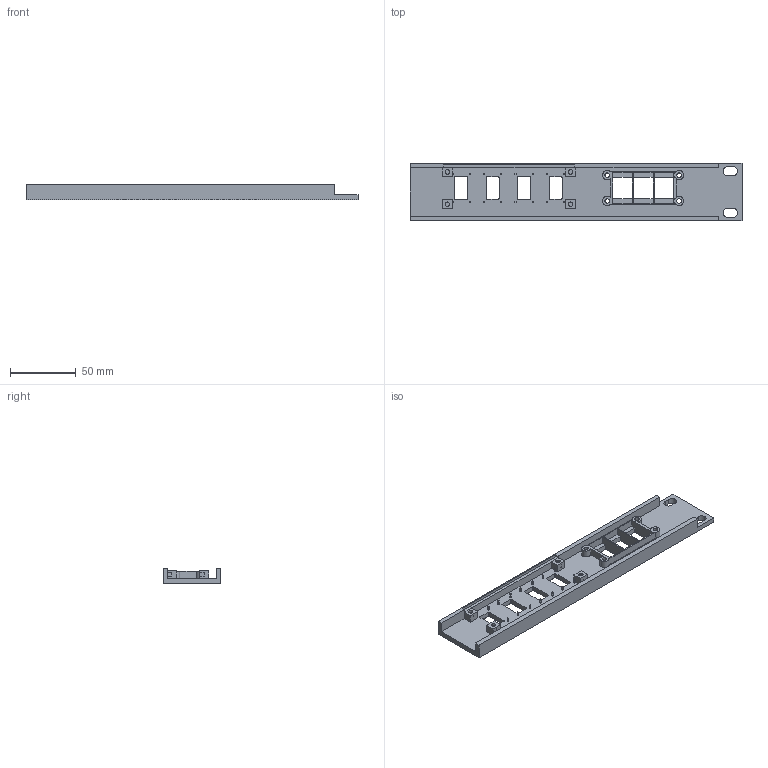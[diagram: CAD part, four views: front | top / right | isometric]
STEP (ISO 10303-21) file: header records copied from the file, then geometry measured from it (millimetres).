
FILE_DESCRIPTION(('Open CASCADE Model'),'2;1');
FILE_NAME('Open CASCADE Shape Model','2026-10-07T10:51:42',('Author'),( 'Open CASCADE'),'Open CASCADE STEP processor 7.8','Open CASCADE 7.8' ,'Unknown');
FILE_SCHEMA(('AUTOMOTIVE_DESIGN { 1 0 10303 214 1 1 1 1 }'));
Length unit declared in the file: millimetre
Products named in the file (1): Open CASCADE STEP translator 7.8 1
Bounding box: 252.93 x 44 x 12 mm (x, y, z)
Volume: 53495.4 mm3; surface area: 34916.9 mm2
Topology: 1 solids, 1 shells, 504 faces, 1365 edges, 910 vertices
Faces by surface type: plane 331, extrusion 117, cylinder 56
Full cylindrical faces by diameter (mm): 3.4 x12
Entity records: 35359 total; most frequent: CARTESIAN_POINT 8741, DIRECTION 4453, VECTOR 3355, LINE 3238, ORIENTED_EDGE 2730, PCURVE 2730, DEFINITIONAL_REPRESENTATION 2730, EDGE_CURVE 1365
